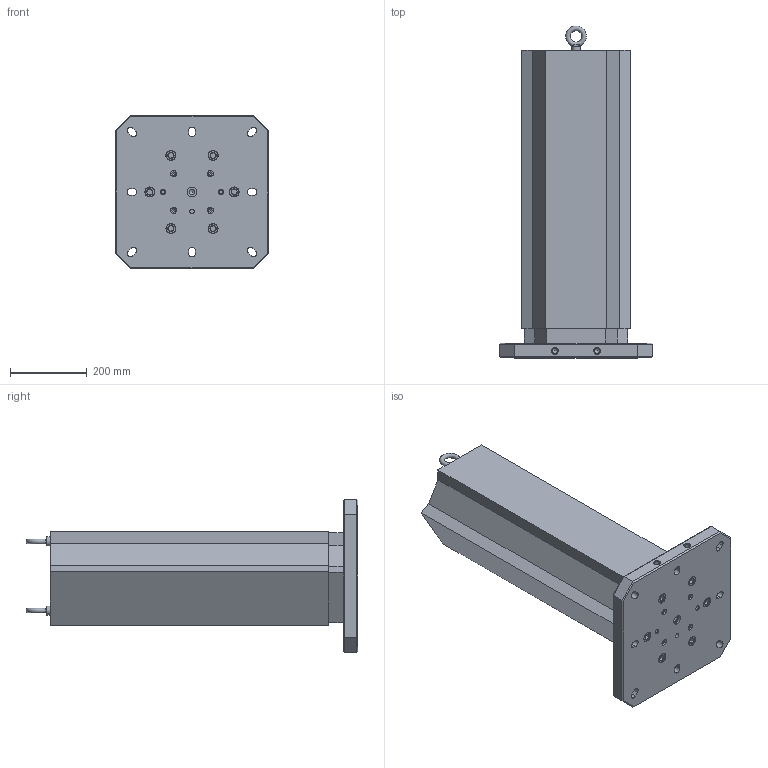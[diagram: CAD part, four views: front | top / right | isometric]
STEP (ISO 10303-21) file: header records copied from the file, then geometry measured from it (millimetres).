
FILE_DESCRIPTION (( 'STEP AP214' ), '1' );
FILE_NAME ('MTA-4003U-800_WEBSITE.step', '2025-08-11T12:33:21', ( '' ), ( '' ), 'SwSTEP 2.0', 'SolidWorks 2024', '' );
FILE_SCHEMA (( 'AUTOMOTIVE_DESIGN' ));
Length unit declared in the file: millimetre
Products named in the file (7): HW.76452_dev_WEBSITE_91290A835; RL96-14TC_WEBSITE; RL96-4003BUA_WEBSITE; MTA-4003U-800_WEBSITE; M12X24MM.EB (McM 3040T15)_WEBSITE_3040T15; MT-3762A_WEBSITE_MACHINABLE TOWER; HW.76172_WEBSITE
Assembly tree (15 placements, depth 2):
  MTA-4003U-800_WEBSITE
    RL96-4003BUA_WEBSITE
    MT-3762A_WEBSITE_MACHINABLE TOWER
    RL96-14TC_WEBSITE
    M12X24MM.EB (McM 3040T15)_WEBSITE_3040T15  x2
    HW.76172_WEBSITE  x4
    HW.76452_dev_WEBSITE_91290A835  x6
Bounding box: 400 x 862.88 x 400 mm (x, y, z)
Volume: 29847338.5 mm3; surface area: 1600709.3 mm2
Topology: 15 solids, 15 shells, 542 faces, 1189 edges, 731 vertices
Faces by surface type: plane 284, cylinder 143, cone 113, torus 2
Full cylindrical faces by diameter (mm): 5 x4, 6 x4, 6.6 x4, 8.5 x4, 10 x4, 10.025 x4, 10.2 x4, 11 x4, 12 x3, 14 x10, 16 x6, 16.02 x4, 17.5 x12, 23 x2, 24 x6, 25.025 x1, 26 x6, 139.7 x1
Entity records: 11348 total; most frequent: CARTESIAN_POINT 1926, DIRECTION 1824, ORIENTED_EDGE 1510, EDGE_CURVE 755, AXIS2_PLACEMENT_3D 689, EDGE_LOOP 582, VERTEX_POINT 541, VECTOR 446
